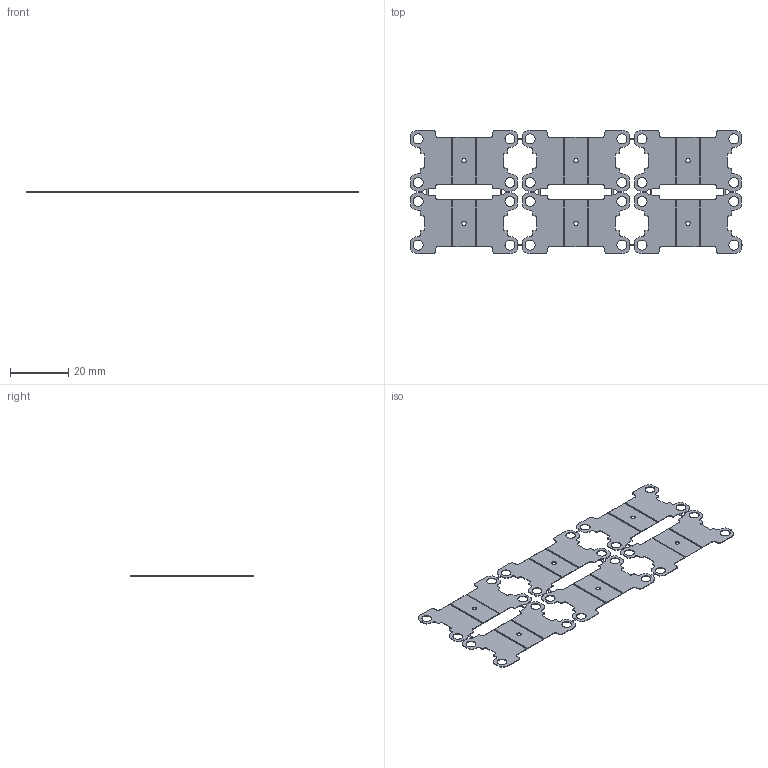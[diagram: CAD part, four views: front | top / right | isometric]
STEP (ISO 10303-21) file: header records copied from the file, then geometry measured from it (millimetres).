
FILE_DESCRIPTION(/* description */ ('Unknown'),/* implementation_level */ '2;1');
FILE_NAME(/* name */ '11206610',/* time_stamp */ '2019-01-09T14:57:35+01:00',/* author */ ('Unknown'),/* organization */ ('Unknown'),/* preprocessor_version */ 'ST-DEVELOPER v16.7',/* originating_system */ 'DEX',/* authorisation */ $);
FILE_SCHEMA (('AUTOMOTIVE_DESIGN {1 0 10303 214 3 1 1}'));
Length unit declared in the file: millimetre
Products named in the file (1): 11206610
Bounding box: 113.74 x 42.4 x 0.2 mm (x, y, z)
Volume: 644.1 mm3; surface area: 6777.9 mm2
Topology: 1 solids, 1 shells, 473 faces, 1422 edges, 948 vertices
Faces by surface type: plane 251, cylinder 222
Full cylindrical faces by diameter (mm): 1.5 x6, 3.4 x24
Entity records: 16100 total; most frequent: CARTESIAN_POINT 2814, ORIENTED_EDGE 2784, DIRECTION 2784, EDGE_CURVE 1392, VERTEX_POINT 948, LINE 948, VECTOR 948, AXIS2_PLACEMENT_3D 918
